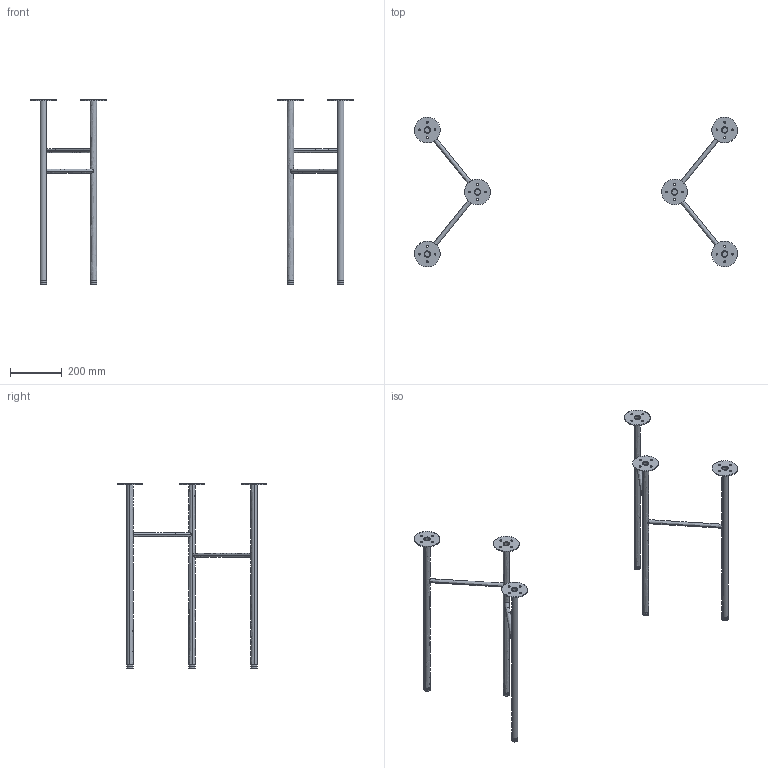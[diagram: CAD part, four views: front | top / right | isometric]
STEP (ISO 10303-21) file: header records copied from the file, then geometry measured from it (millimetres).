
FILE_DESCRIPTION(/* description */ (''),/* implementation_level */ '2;1');
FILE_NAME(/* name */ 'MKB6DJ~1',/* time_stamp */ '2019-02-06T10:21:19+01:00',/* author */ (''),/* organization */ (''),/* preprocessor_version */ 'ST-DEVELOPER v15',/* originating_system */ '',/* authorisation */ '');
FILE_SCHEMA (('AUTOMOTIVE_DESIGN'));
Length unit declared in the file: millimetre
Products named in the file (1): Document
Bounding box: 1255.03 x 582 x 716.5 mm (x, y, z)
Volume: 1029732.4 mm3; surface area: 777709.9 mm2
Topology: 8 solids, 8 shells, 176 faces, 412 edges, 284 vertices
Faces by surface type: bspline 176
Entity records: 13937 total; most frequent: CARTESIAN_POINT 8941, ORIENTED_EDGE 812, PCURVE 812, DEFINITIONAL_REPRESENTATION 812, B_SPLINE_CURVE_WITH_KNOTS 652, SURFACE_CURVE 406, EDGE_CURVE 406, VERTEX_POINT 278
